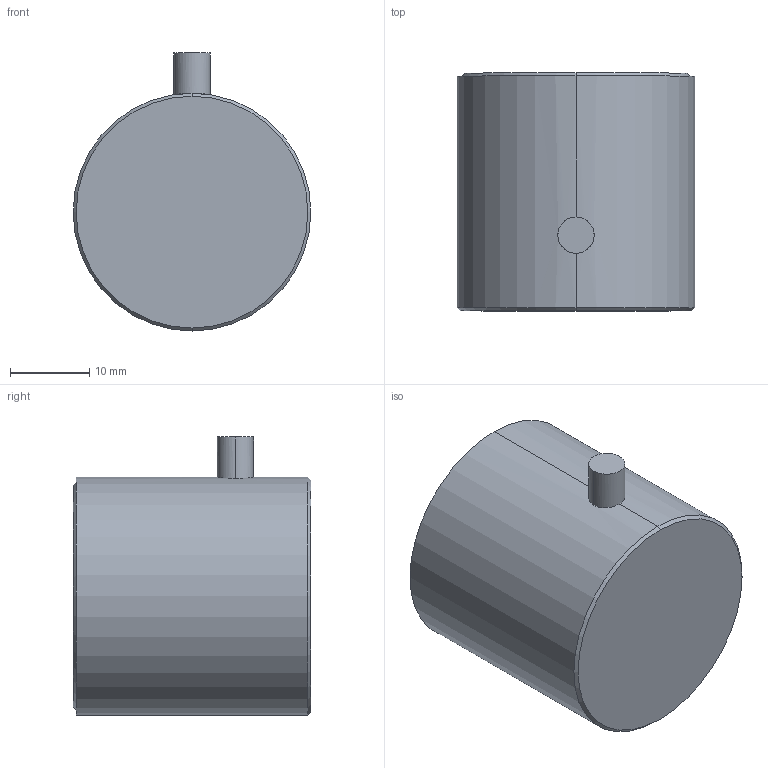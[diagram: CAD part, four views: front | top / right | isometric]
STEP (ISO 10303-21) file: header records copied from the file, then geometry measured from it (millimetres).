
FILE_DESCRIPTION (( 'STEP AP214' ), '1' );
FILE_NAME ('Final ASBY SS1705-200kN.STEP', '2024-08-12T14:38:54', ( '' ), ( '' ), 'SwSTEP 2.0', 'SolidWorks 2008', '' );
FILE_SCHEMA (( 'AUTOMOTIVE_DESIGN' ));
Length unit declared in the file: inch
Products named in the file (1): Final ASBY SS1705-200kN
Bounding box: 30 x 30 x 35.08 mm (x, y, z)
Volume: 21249.6 mm3; surface area: 4271.5 mm2
Topology: 1 solids, 1 shells, 12 faces, 25 edges, 16 vertices
Faces by surface type: cylinder 4, cone 4, plane 4
Entity records: 404 total; most frequent: CARTESIAN_POINT 114, DIRECTION 59, ORIENTED_EDGE 50, EDGE_CURVE 25, AXIS2_PLACEMENT_3D 25, VERTEX_POINT 16, EDGE_LOOP 13, ADVANCED_FACE 12
